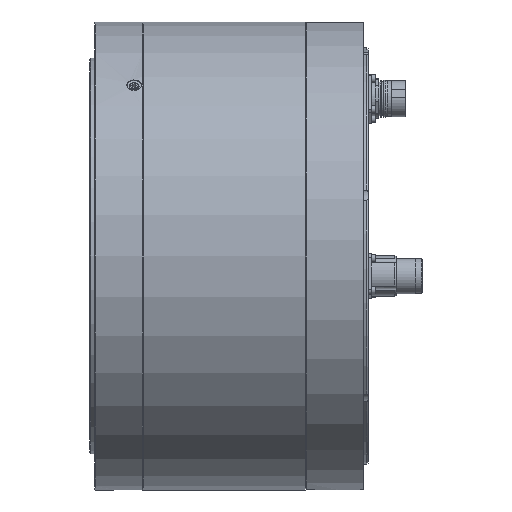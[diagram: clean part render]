
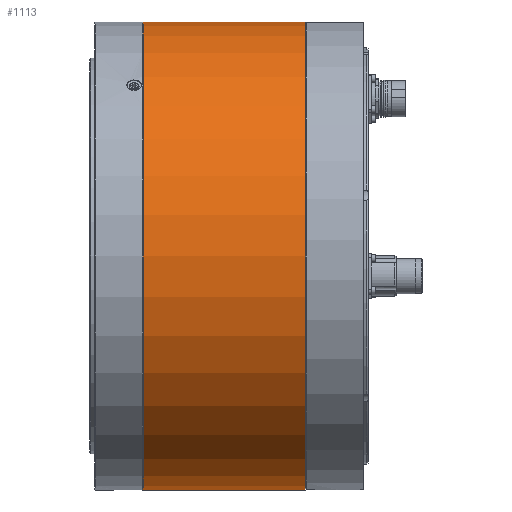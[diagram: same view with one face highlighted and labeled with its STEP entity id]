
A CAD part, front view. The second image highlights one B-rep face of the part: STEP entity #1113.
In plain terms, the highlighted cylindrical face has radius 145 mm (diameter 290 mm), a full revolution.
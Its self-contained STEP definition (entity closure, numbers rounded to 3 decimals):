
#1113 = ADVANCED_FACE( '', ( #2323, #2324 ), #2325, .T. );
#2323 = FACE_OUTER_BOUND( '', #4399, .T. );
#2324 = FACE_OUTER_BOUND( '', #4400, .T. );
#2325 = CYLINDRICAL_SURFACE( '', #4401, 145. );
#4399 = EDGE_LOOP( '', ( #6919 ) );
#4400 = EDGE_LOOP( '', ( #6920 ) );
#4401 = AXIS2_PLACEMENT_3D( '', #6921, #6922, #6923 );
#6919 = ORIENTED_EDGE( '', *, *, #10283, .T. );
#6920 = ORIENTED_EDGE( '', *, *, #10284, .F. );
#6921 = CARTESIAN_POINT( '', ( 0., -60., 0. ) );
#6922 = DIRECTION( '', ( 0., 1., 0. ) );
#6923 = DIRECTION( '', ( 0., 0., -1. ) );
#10283 = EDGE_CURVE( '', #12733, #12733, #12734, .T. );
#10284 = EDGE_CURVE( '', #12735, #12735, #12736, .T. );
#12733 = VERTEX_POINT( '', #14753 );
#12734 = CIRCLE( '', #14754, 145. );
#12735 = VERTEX_POINT( '', #14755 );
#12736 = CIRCLE( '', #14756, 145. );
#14753 = CARTESIAN_POINT( '', ( 0., 100.5, -145. ) );
#14754 = AXIS2_PLACEMENT_3D( '', #17595, #17596, #17597 );
#14755 = CARTESIAN_POINT( '', ( 0., 0., -145. ) );
#14756 = AXIS2_PLACEMENT_3D( '', #17598, #17599, #17600 );
#17595 = CARTESIAN_POINT( '', ( 0., 100.5, 0. ) );
#17596 = DIRECTION( '', ( 0., -1., 0. ) );
#17597 = DIRECTION( '', ( 0., 0., -1. ) );
#17598 = CARTESIAN_POINT( '', ( 0., 0., 0. ) );
#17599 = DIRECTION( '', ( 0., -1., 0. ) );
#17600 = DIRECTION( '', ( 0., 0., -1. ) );
